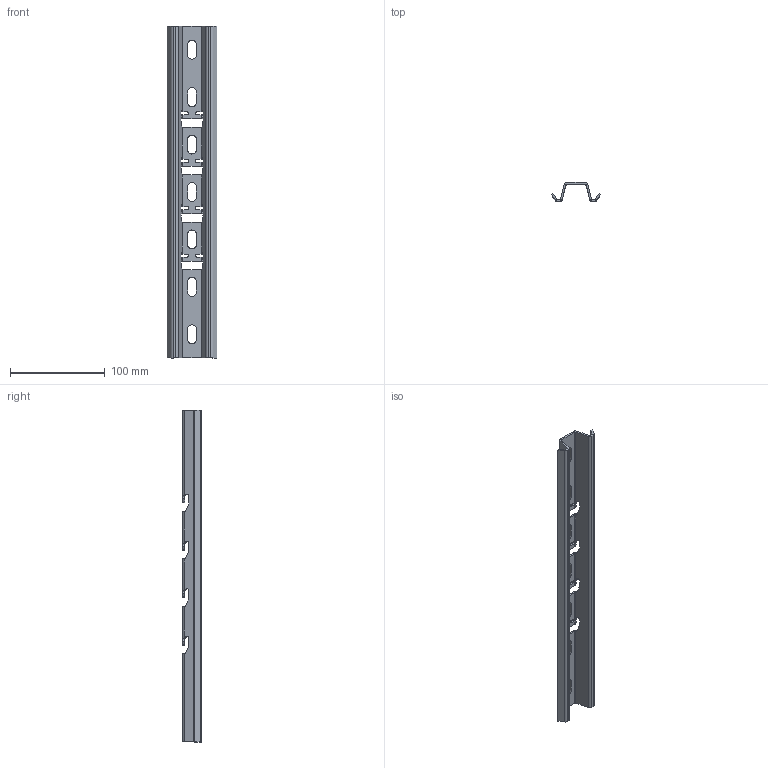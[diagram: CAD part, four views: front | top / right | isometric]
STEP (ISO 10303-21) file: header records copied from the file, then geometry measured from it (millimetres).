
FILE_DESCRIPTION (( 'STEP AP214' ), '1' );
FILE_NAME ('C-SVO_200.STEP', '2021-10-15T08:48:08', ( '' ), ( '' ), 'SwSTEP 2.0', 'SolidWorks 2019', '' );
FILE_SCHEMA (( 'AUTOMOTIVE_DESIGN' ));
Length unit declared in the file: millimetre
Products named in the file (1): C-SVO_200
Bounding box: 52 x 20 x 350 mm (x, y, z)
Volume: 52999.8 mm3; surface area: 56598.1 mm2
Topology: 1 solids, 1 shells, 265 faces, 669 edges, 398 vertices
Faces by surface type: plane 168, cylinder 89, bspline 8
Entity records: 8087 total; most frequent: CARTESIAN_POINT 1661, ORIENTED_EDGE 1338, DIRECTION 1331, EDGE_CURVE 669, LINE 459, VECTOR 459, AXIS2_PLACEMENT_3D 436, VERTEX_POINT 398
